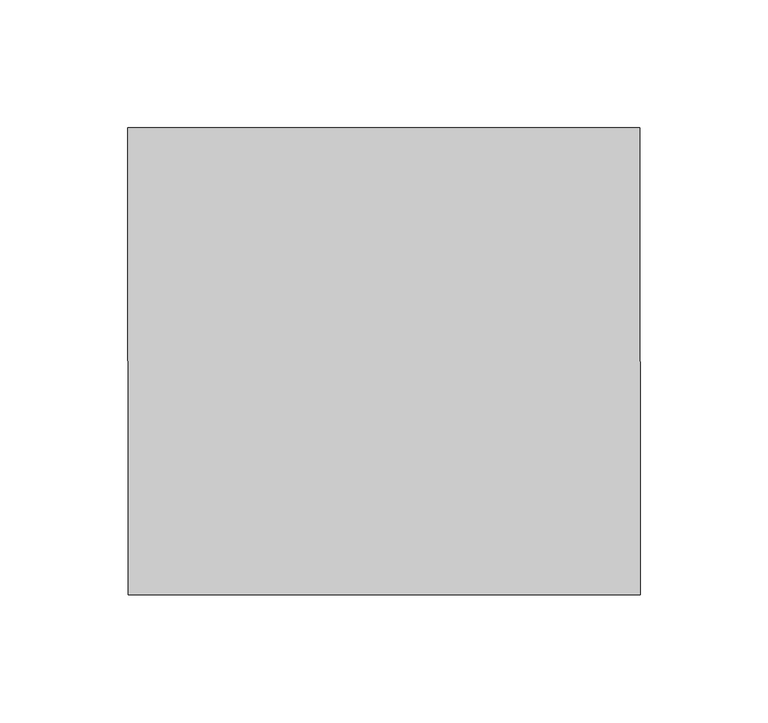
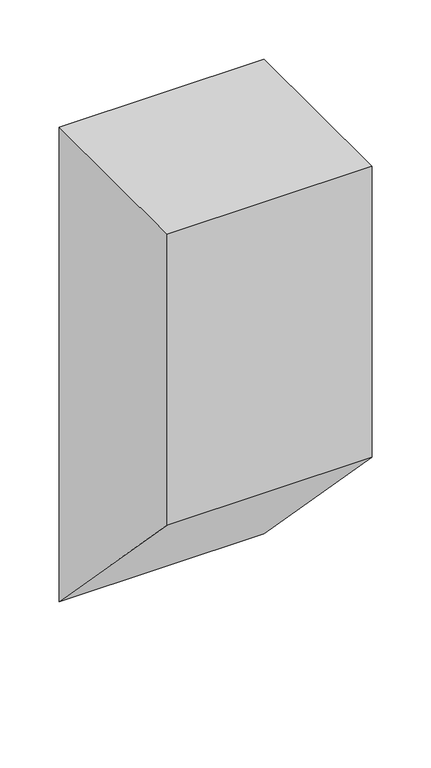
"""IFC4 building model written with IfcOpenShell, lengths in millimetres: beam geometry, appoggiTravi62 : appoggiTravi."""

from ifc_helpers import new_model, si_unit, frame, origin, place, context, project, spatial, polyline, outline, extrude, source, transform, mapped, element, save


def beam_5facf98d(model_context):
    return source(origin(), model_context, "Body", "SweptSolid", [
        extrude(outline(polyline([(29595.8694137, -4880.0), (29595.8694137, -4580.0), (29778.1197423, -4580.0), (29778.1197423, -5069.0), (29595.8694137, -4880.0)])), frame((16842.3599913, 0.0, 0.0), z_axis=(1.0, 0.0, 0.0), x_axis=(0.0, 1.0, 0.0)), (0.0, 0.0, 1.0), 200.0),
    ])


if __name__ == "__main__":
    model = new_model("IFC4")
    model_context = context("Model", 3, world=origin())
    ifc_project = project(units=[si_unit("LENGTHUNIT", "METRE", prefix="MILLI")], contexts=[model_context])
    site = spatial("IfcSite", under=ifc_project)
    building = spatial("IfcBuilding", under=site)
    placement = place(None, origin())
    beam_shape = beam_5facf98d(model_context)
    element("IfcBeam", 1, ObjectType="appoggiTravi62 : appoggiTravi", at=placement, inside=building, context=model_context, shape_type="MappedRepresentation", body=[
        mapped(beam_shape, transform((0.0, 0.0, 0.0), x_axis=(1.0, 0.0, 0.0), y_axis=(0.0, 1.0, 0.0), z_axis=(0.0, 0.0, 1.0))),
    ])
    save(model, "model.ifc")
